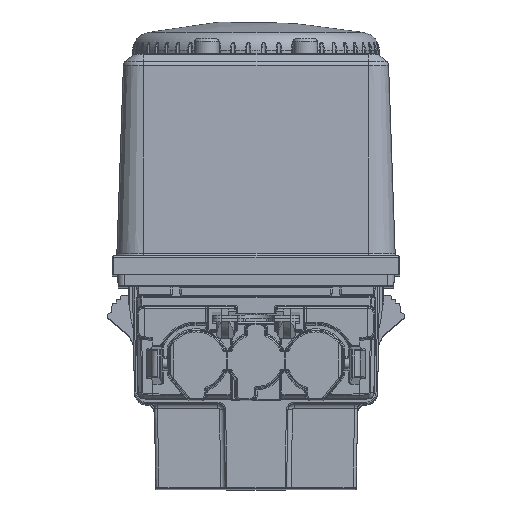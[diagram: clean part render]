
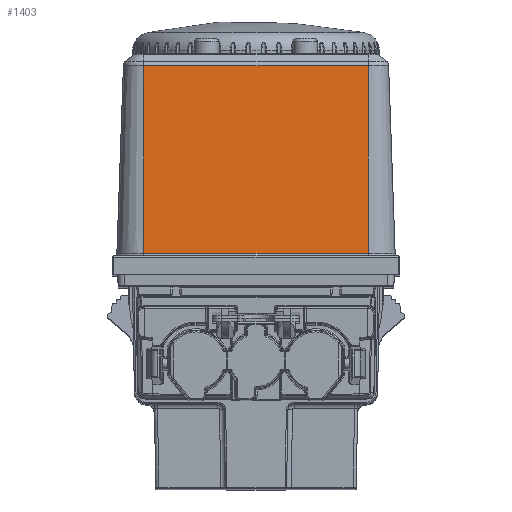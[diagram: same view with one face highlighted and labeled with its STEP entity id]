
A CAD part, top view. The second image highlights one B-rep face of the part: STEP entity #1403.
In plain terms, the highlighted planar face has unit normal (0, 0.035, 0.999).
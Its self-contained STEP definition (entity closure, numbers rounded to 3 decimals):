
#1403 = ADVANCED_FACE ( 'NONE', ( #96949 ), #21408, .T. ) ;
#3297 = EDGE_LOOP ( 'NONE', ( #70208, #49935, #45763, #24294 ) ) ;
#6387 = LINE ( 'NONE', #80732, #25614 ) ;
#6551 = CARTESIAN_POINT ( 'NONE',  ( 18.25, 38.283, 40.367 ) ) ;
#11434 = DIRECTION ( 'NONE',  ( 0., -0.999, 0.035 ) ) ;
#11760 = EDGE_CURVE ( 'NONE', #32014, #63834, #6387, .T. ) ;
#16235 = CARTESIAN_POINT ( 'NONE',  ( 18.25, 48.8, 40. ) ) ;
#21408 = PLANE ( 'NONE',  #54463 ) ;
#24294 = ORIENTED_EDGE ( 'NONE', *, *, #82273, .T. ) ;
#25614 = VECTOR ( 'NONE', #90730, 1000. ) ;
#26761 = LINE ( 'NONE', #68394, #90162 ) ;
#32014 = VERTEX_POINT ( 'NONE', #61435 ) ;
#39199 = VERTEX_POINT ( 'NONE', #65727 ) ;
#41623 = EDGE_CURVE ( 'NONE', #63834, #39199, #101313, .T. ) ;
#42425 = CARTESIAN_POINT ( 'NONE',  ( -18.25, 48.8, 40. ) ) ;
#45763 = ORIENTED_EDGE ( 'NONE', *, *, #41623, .T. ) ;
#46756 = EDGE_CURVE ( 'NONE', #32014, #67543, #67807, .T. ) ;
#49935 = ORIENTED_EDGE ( 'NONE', *, *, #11760, .T. ) ;
#54463 = AXIS2_PLACEMENT_3D ( 'NONE', #70805, #89104, #11434 ) ;
#61435 = CARTESIAN_POINT ( 'NONE',  ( 18.25, 68.799, 39.302 ) ) ;
#63834 = VERTEX_POINT ( 'NONE', #105378 ) ;
#65727 = CARTESIAN_POINT ( 'NONE',  ( -18.25, 38.283, 40.367 ) ) ;
#67543 = VERTEX_POINT ( 'NONE', #6551 ) ;
#67807 = LINE ( 'NONE', #16235, #78412 ) ;
#68394 = CARTESIAN_POINT ( 'NONE',  ( 0., 38.283, 40.367 ) ) ;
#70208 = ORIENTED_EDGE ( 'NONE', *, *, #46756, .F. ) ;
#70805 = CARTESIAN_POINT ( 'NONE',  ( 0., 48.8, 40. ) ) ;
#78412 = VECTOR ( 'NONE', #99568, 1000. ) ;
#78435 = DIRECTION ( 'NONE',  ( 0., -0.999, 0.035 ) ) ;
#80732 = CARTESIAN_POINT ( 'NONE',  ( -18.25, 68.799, 39.302 ) ) ;
#82273 = EDGE_CURVE ( 'NONE', #39199, #67543, #26761, .T. ) ;
#85590 = DIRECTION ( 'NONE',  ( 1., 0., 0. ) ) ;
#89104 = DIRECTION ( 'NONE',  ( 0., 0.035, 0.999 ) ) ;
#90162 = VECTOR ( 'NONE', #85590, 1000. ) ;
#90730 = DIRECTION ( 'NONE',  ( -1., 0., 0. ) ) ;
#96949 = FACE_OUTER_BOUND ( 'NONE', #3297, .T. ) ;
#99568 = DIRECTION ( 'NONE',  ( 0., -0.999, 0.035 ) ) ;
#101313 = LINE ( 'NONE', #42425, #108829 ) ;
#105378 = CARTESIAN_POINT ( 'NONE',  ( -18.25, 68.799, 39.302 ) ) ;
#108829 = VECTOR ( 'NONE', #78435, 1000. ) ;
